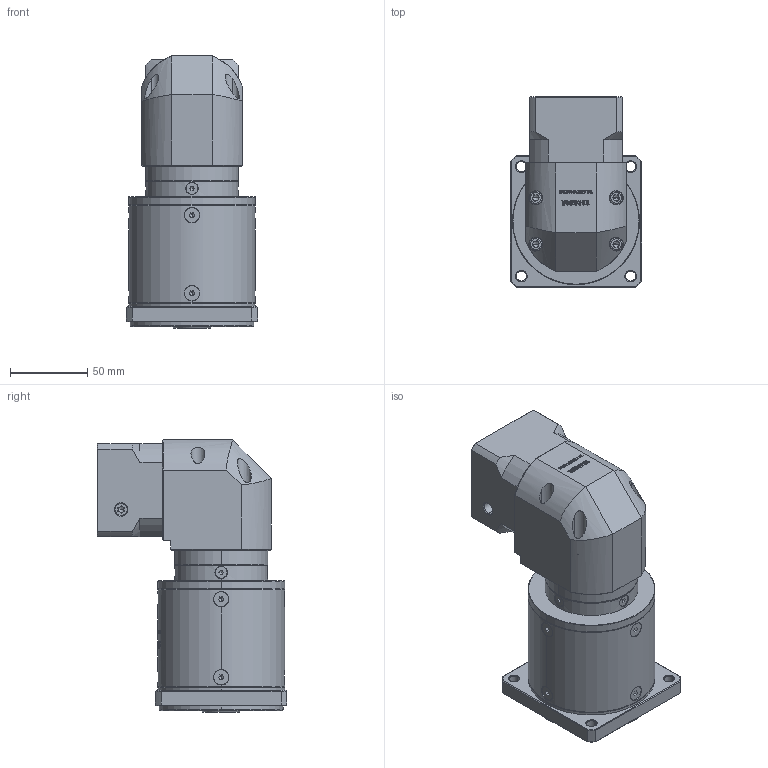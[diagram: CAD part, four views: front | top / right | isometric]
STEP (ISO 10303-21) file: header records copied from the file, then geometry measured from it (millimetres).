
FILE_DESCRIPTION (( 'STEP AP214' ), '1' );
FILE_NAME ('ZFR80-K15-L3-6.35-38.1-47.14x47.14-M4.step', '2022-05-08T15:01:36', ( '' ), ( 'Microsoft' ), 'SwSTEP 2.0', 'SolidWorks 2016', '' );
FILE_SCHEMA (( 'AUTOMOTIVE_DESIGN' ));
Length unit declared in the file: millimetre
Products named in the file (1): ZFR80-K15-L3-6.35-38.1-47.14x47.14-M4
Bounding box: 85 x 122.7 x 176 mm (x, y, z)
Volume: 875917 mm3; surface area: 107599.4 mm2
Topology: 17 solids, 18 shells, 3024 faces, 8051 edges, 5184 vertices
Faces by surface type: plane 1595, bspline 610, cylinder 435, cone 376, torus 8
Entity records: 157508 total; most frequent: CARTESIAN_POINT 54188, ORIENTED_EDGE 16014, DIRECTION 12199, EDGE_CURVE 8007, VERTEX_POINT 5184, VECTOR 4927, LINE 4927, AXIS2_PLACEMENT_3D 3636
